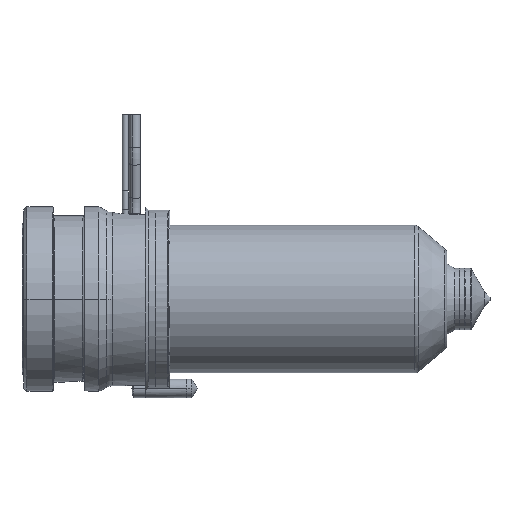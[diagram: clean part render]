
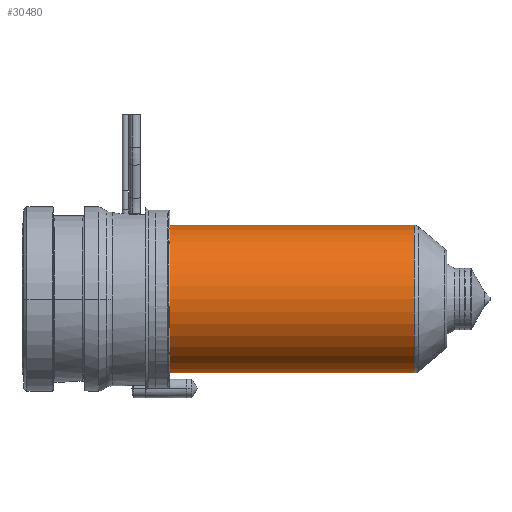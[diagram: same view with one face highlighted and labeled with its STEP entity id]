
A CAD part, left-side view. The second image highlights one B-rep face of the part: STEP entity #30480.
In plain terms, the highlighted cylindrical face has radius 12 mm (diameter 24 mm), a partial arc.
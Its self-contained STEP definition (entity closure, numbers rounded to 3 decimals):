
#29965=CARTESIAN_POINT('',(0.,-24.,0.));
#29966=DIRECTION('',(0.,1.,0.));
#29967=DIRECTION('',(0.,0.,-1.));
#29968=AXIS2_PLACEMENT_3D('',#29965,#29966,#29967);
#29973=DIRECTION('',(0.,1.,0.));
#29974=VECTOR('',#29973,39.736);
#29975=CARTESIAN_POINT('',(0.,-63.736,12.));
#29976=LINE('',#29975,#29974);
#29988=DIRECTION('',(0.,1.,0.));
#29989=VECTOR('',#29988,39.736);
#29990=CARTESIAN_POINT('',(0.,-63.736,-12.));
#29991=LINE('',#29990,#29989);
#30019=CARTESIAN_POINT('',(0.,-63.736,0.));
#30020=DIRECTION('',(0.,-1.,0.));
#30021=DIRECTION('',(0.,0.,1.));
#30022=AXIS2_PLACEMENT_3D('',#30019,#30020,#30021);
#30349=CARTESIAN_POINT('',(0.,-63.736,12.));
#30350=CARTESIAN_POINT('',(0.,-24.,12.));
#30351=VERTEX_POINT('',#30349);
#30352=VERTEX_POINT('',#30350);
#30353=CARTESIAN_POINT('',(0.,-63.736,-12.));
#30354=CARTESIAN_POINT('',(0.,-24.,-12.));
#30355=VERTEX_POINT('',#30353);
#30356=VERTEX_POINT('',#30354);
#30466=CARTESIAN_POINT('',(0.,-17.2,0.));
#30467=DIRECTION('',(0.,-1.,0.));
#30468=DIRECTION('',(0.,0.,1.));
#30469=AXIS2_PLACEMENT_3D('',#30466,#30467,#30468);
#30470=CYLINDRICAL_SURFACE('',#30469,12.);
#30472=ORIENTED_EDGE('',*,*,#30471,.F.);
#30474=ORIENTED_EDGE('',*,*,#30473,.T.);
#30476=ORIENTED_EDGE('',*,*,#30475,.T.);
#30477=ORIENTED_EDGE('',*,*,#30459,.T.);
#30478=EDGE_LOOP('',(#30472,#30474,#30476,#30477));
#30479=FACE_OUTER_BOUND('',#30478,.F.);
#30480=ADVANCED_FACE('',(#30479),#30470,.T.);
#29969=CIRCLE('',#29968,12.);
#30023=CIRCLE('',#30022,12.);
#30459=EDGE_CURVE('',#30356,#30352,#29969,.T.);
#30471=EDGE_CURVE('',#30351,#30352,#29976,.T.);
#30473=EDGE_CURVE('',#30351,#30355,#30023,.T.);
#30475=EDGE_CURVE('',#30355,#30356,#29991,.T.);
